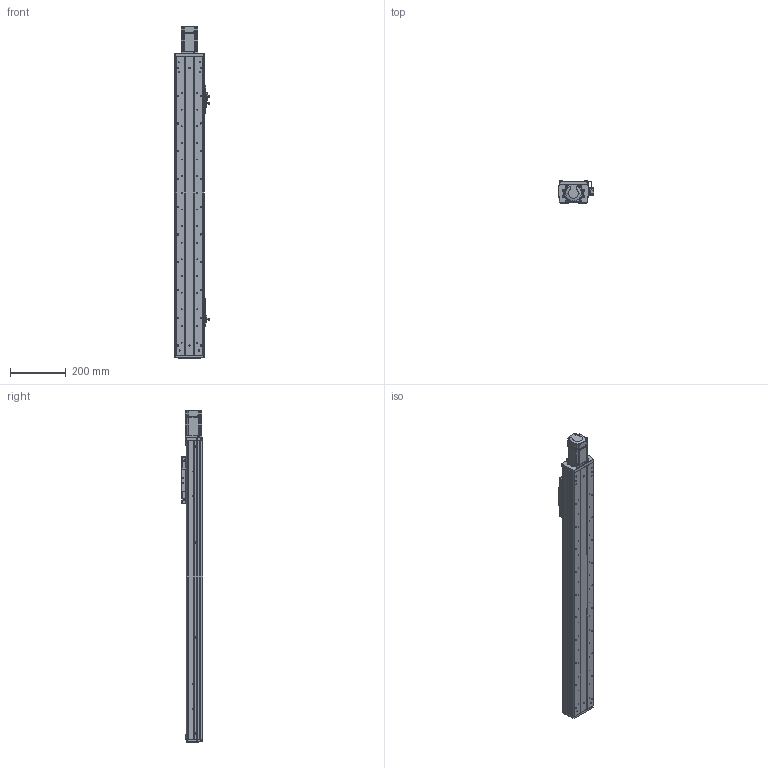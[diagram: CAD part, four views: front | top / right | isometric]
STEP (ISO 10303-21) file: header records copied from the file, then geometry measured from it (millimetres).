
FILE_DESCRIPTION (( 'STEP AP203' ), '1' );
FILE_NAME ('RY100FS-300-MK(15双轨).SLDASM_800.step', '2021-03-02T05:51:05', ( '盈信电脑' ), ( '东莞市道滘镇水果街19号' ), 'SwSTEP 2.0', 'SolidWorks 2012', '' );
FILE_SCHEMA (( 'CONFIG_CONTROL_DESIGN' ));
Products named in the file (20): RY100FS-300-MK(15邧寢).SLDASM_800; 滅袉蝶14-35; RY100FS-双轨螺母座(16丝杆）; RY100F-詩湍揤踡輸; 滅袉蝶14-24; RY100FS-15絳寢萇儂假蚾啣(200W PCD70 M4); RY80俋离覜茼え; 672嫖萇羲壽假蚾釱; 覜茼ん672; 1; RY100F-綴裔啣; RY100F-詩湍揤踡謫; 侂狟200W萇儂; RY100FS-双轨铝滑块(上板）; RY100F-滅鳥裔啣; RY100F-詩湍幗謫粣; 棠沺沭; RY100FS-300-MK15絳寢倰第菁釱_800; RY100FS-300-MK15邧寢祥凄詩湍_800; RY100FS-300-MK15絳寢倰第奻裔啣_800
Assembly tree (27 placements, depth 3):
  RY100FS-300-MK(15邧寢).SLDASM_800
    RY100FS-300-MK15絳寢倰第菁釱_800
    RY100FS-300-MK15絳寢倰第奻裔啣_800  x2
    RY100FS-300-MK15邧寢祥凄詩湍_800
    RY100FS-双轨铝滑块(上板）
    RY100F-滅鳥裔啣
    棠沺沭  x2
    RY100F-詩湍幗謫粣
    RY100F-詩湍揤踡謫  x2
    侂狟200W萇儂
      1
    RY100F-綴裔啣
    672嫖萇羲壽假蚾釱  x2
    RY80俋离覜茼え  x2
    覜茼ん672  x3
    RY100F-詩湍揤踡輸  x2
    RY100FS-15絳寢萇儂假蚾啣(200W PCD70 M4)
    RY100FS-双轨螺母座(16丝杆）
    滅袉蝶14-24
    滅袉蝶14-35
Bounding box: 126.2 x 78.5 x 1196 mm (x, y, z)
Volume: 2518100.6 mm3; surface area: 1035510.9 mm2
Topology: 26 solids, 26 shells, 2069 faces, 5675 edges, 3692 vertices
Faces by surface type: plane 978, cylinder 930, cone 136, bspline 25
Entity records: 59744 total; most frequent: CARTESIAN_POINT 12688, ORIENTED_EDGE 9330, DIRECTION 9322, EDGE_CURVE 4665, AXIS2_PLACEMENT_3D 3280, VERTEX_POINT 3072, LINE 2762, VECTOR 2762
